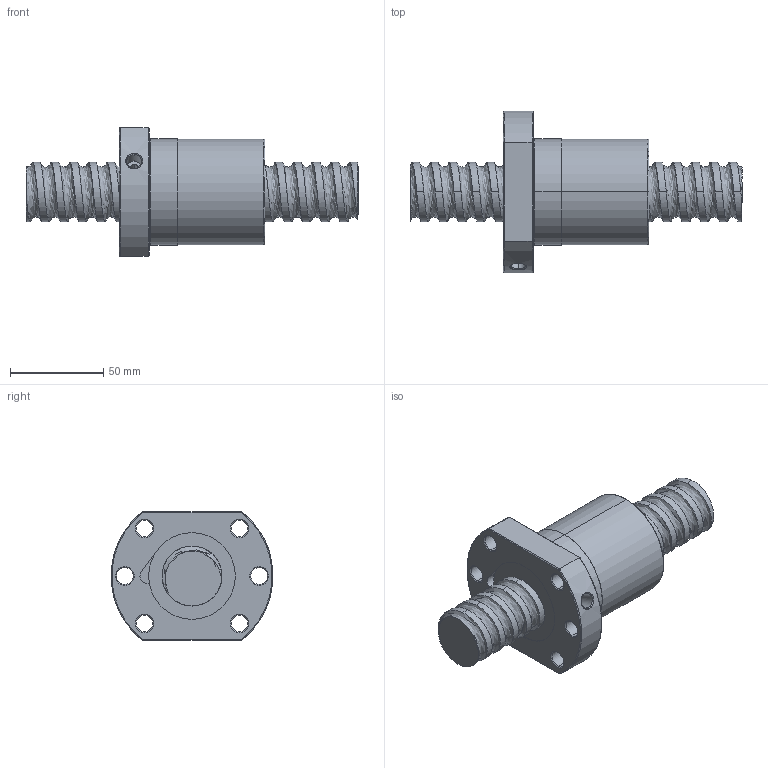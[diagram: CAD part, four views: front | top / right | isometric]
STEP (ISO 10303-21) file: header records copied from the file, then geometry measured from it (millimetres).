
FILE_DESCRIPTION (( 'STEP AP214' ), '1' );
FILE_NAME ('FSDC03210T5-F-C.STEP', '2010-06-25T11:42:14', ( 'XPAUTO' ), ( 'XPAUTO' ), 'SwSTEP 2.0', 'SolidWorks 2007', '' );
FILE_SCHEMA (( 'AUTOMOTIVE_DESIGN' ));
Length unit declared in the file: millimetre
Products named in the file (3): FSDC03210T5-F-C.sldasm-Part-1_預設; FSDC03210T5-F-C.sldasm-Part-2_預設; FSDC03210T5-F-C
Assembly tree (2 placements, depth 2):
  FSDC03210T5-F-C
    FSDC03210T5-F-C.sldasm-Part-2_預設
    FSDC03210T5-F-C.sldasm-Part-1_預設
Bounding box: 178 x 86.7 x 69 mm (x, y, z)
Volume: 295413.3 mm3; surface area: 57344.2 mm2
Topology: 2 solids, 2 shells, 131 faces, 327 edges, 205 vertices
Faces by surface type: cylinder 74, cone 24, plane 22, torus 6, bspline 5
Entity records: 26166 total; most frequent: CARTESIAN_POINT 23060, ORIENTED_EDGE 654, DIRECTION 595, EDGE_CURVE 327, AXIS2_PLACEMENT_3D 240, VERTEX_POINT 205, EDGE_LOOP 152, FACE_OUTER_BOUND 131
